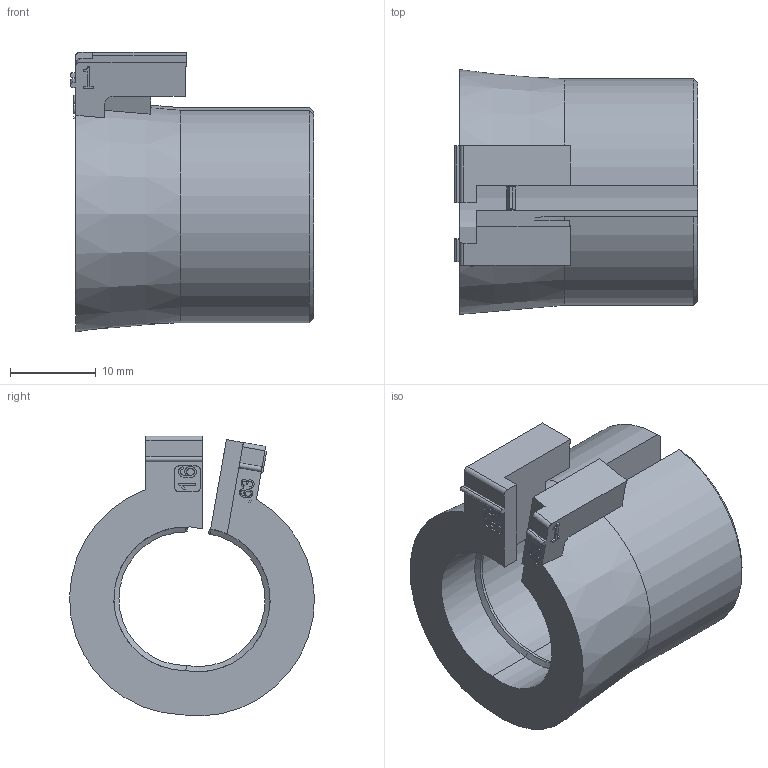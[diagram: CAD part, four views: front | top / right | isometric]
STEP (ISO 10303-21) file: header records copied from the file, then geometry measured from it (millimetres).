
FILE_DESCRIPTION(/* description */ (''),/* implementation_level */ '2;1');
FILE_NAME(/* name */ 'C:\SapWorkDir\Inventor\MP1\ConvertTempPath\87_12_121360_00_A_220530_KDT-X 16.stp',/* time_stamp */ '2022-05-31T12:57:46+02:00',/* author */ ('BAUER'),/* organization */ (''),/* preprocessor_version */ 'ST-DEVELOPER v16.13',/* originating_system */ 'Autodesk Inventor 2018',/* authorisation */ '');
FILE_SCHEMA (('AUTOMOTIVE_DESIGN { 1 0 10303 214 3 1 1 }'));
Length unit declared in the file: millimetre
Products named in the file (1): 121360
Bounding box: 28.4 x 28.6 x 32.69 mm (x, y, z)
Volume: 8579.5 mm3; surface area: 5112.2 mm2
Topology: 1 solids, 1 shells, 159 faces, 426 edges, 278 vertices
Faces by surface type: plane 83, bspline 44, cylinder 24, cone 8
Entity records: 5284 total; most frequent: CARTESIAN_POINT 1419, ORIENTED_EDGE 852, DIRECTION 621, EDGE_CURVE 426, VERTEX_POINT 278, LINE 273, VECTOR 273, AXIS2_PLACEMENT_3D 174
